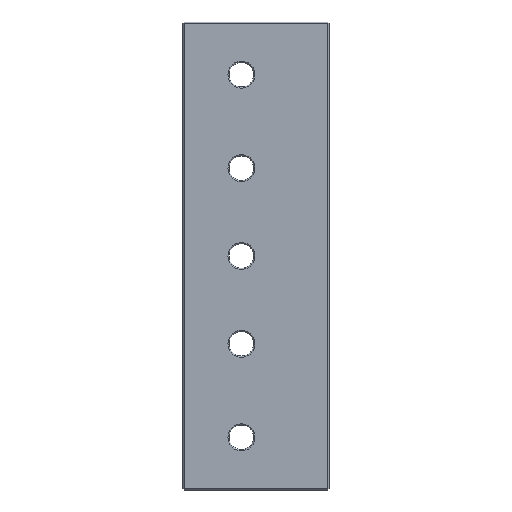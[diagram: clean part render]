
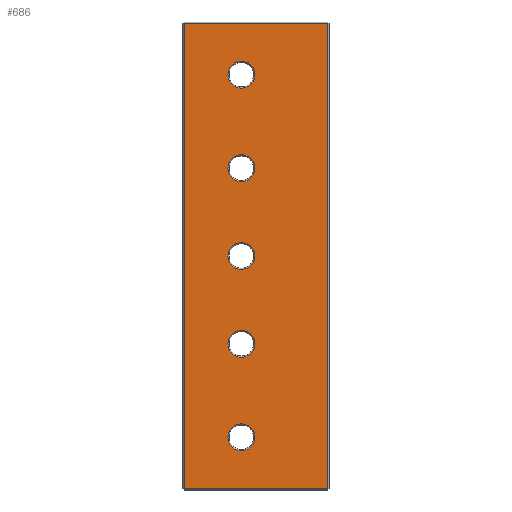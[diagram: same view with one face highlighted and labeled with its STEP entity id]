
A CAD part, front view. The second image highlights one B-rep face of the part: STEP entity #686.
In plain terms, the highlighted planar face has unit normal (0, -1, 0).
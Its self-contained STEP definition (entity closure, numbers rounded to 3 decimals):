
#19=FACE_BOUND('',#109,.T.);
#20=FACE_BOUND('',#110,.T.);
#21=FACE_BOUND('',#111,.T.);
#22=FACE_BOUND('',#112,.T.);
#23=FACE_BOUND('',#113,.T.);
#29=CIRCLE('',#748,11.5);
#31=CIRCLE('',#751,11.5);
#32=CIRCLE('',#752,11.5);
#33=CIRCLE('',#753,11.5);
#34=CIRCLE('',#754,11.5);
#66=FACE_OUTER_BOUND('',#108,.T.);
#108=EDGE_LOOP('',(#440,#441,#442,#443));
#109=EDGE_LOOP('',(#444));
#110=EDGE_LOOP('',(#445));
#111=EDGE_LOOP('',(#446));
#112=EDGE_LOOP('',(#447));
#113=EDGE_LOOP('',(#448));
#163=LINE('',#1034,#229);
#164=LINE('',#1036,#230);
#165=LINE('',#1038,#231);
#166=LINE('',#1039,#232);
#229=VECTOR('',#830,10.);
#230=VECTOR('',#831,10.);
#231=VECTOR('',#832,10.);
#232=VECTOR('',#833,10.);
#294=VERTEX_POINT('',#1026);
#296=VERTEX_POINT('',#1032);
#297=VERTEX_POINT('',#1033);
#298=VERTEX_POINT('',#1035);
#299=VERTEX_POINT('',#1037);
#300=VERTEX_POINT('',#1040);
#301=VERTEX_POINT('',#1042);
#302=VERTEX_POINT('',#1044);
#303=VERTEX_POINT('',#1046);
#345=EDGE_CURVE('',#294,#294,#29,.T.);
#348=EDGE_CURVE('',#296,#297,#163,.T.);
#349=EDGE_CURVE('',#298,#296,#164,.T.);
#350=EDGE_CURVE('',#299,#298,#165,.T.);
#351=EDGE_CURVE('',#297,#299,#166,.T.);
#352=EDGE_CURVE('',#300,#300,#31,.T.);
#353=EDGE_CURVE('',#301,#301,#32,.T.);
#354=EDGE_CURVE('',#302,#302,#33,.T.);
#355=EDGE_CURVE('',#303,#303,#34,.T.);
#440=ORIENTED_EDGE('',*,*,#348,.F.);
#441=ORIENTED_EDGE('',*,*,#349,.F.);
#442=ORIENTED_EDGE('',*,*,#350,.F.);
#443=ORIENTED_EDGE('',*,*,#351,.F.);
#444=ORIENTED_EDGE('',*,*,#352,.F.);
#445=ORIENTED_EDGE('',*,*,#353,.F.);
#446=ORIENTED_EDGE('',*,*,#354,.F.);
#447=ORIENTED_EDGE('',*,*,#355,.F.);
#448=ORIENTED_EDGE('',*,*,#345,.F.);
#615=PLANE('',#750);
#686=ADVANCED_FACE('',(#66,#19,#20,#21,#22,#23),#615,.F.);
#748=AXIS2_PLACEMENT_3D('',#1027,#823,#824);
#750=AXIS2_PLACEMENT_3D('',#1031,#828,#829);
#751=AXIS2_PLACEMENT_3D('',#1041,#834,#835);
#752=AXIS2_PLACEMENT_3D('',#1043,#836,#837);
#753=AXIS2_PLACEMENT_3D('',#1045,#838,#839);
#754=AXIS2_PLACEMENT_3D('',#1047,#840,#841);
#823=DIRECTION('center_axis',(0.,-1.,0.));
#824=DIRECTION('ref_axis',(1.,0.,0.));
#828=DIRECTION('center_axis',(0.,1.,0.));
#829=DIRECTION('ref_axis',(0.,0.,1.));
#830=DIRECTION('',(0.,0.,-1.));
#831=DIRECTION('',(1.,0.,0.));
#832=DIRECTION('',(0.,0.,1.));
#833=DIRECTION('',(-1.,0.,0.));
#834=DIRECTION('center_axis',(0.,-1.,0.));
#835=DIRECTION('ref_axis',(1.,0.,0.));
#836=DIRECTION('center_axis',(0.,-1.,0.));
#837=DIRECTION('ref_axis',(1.,0.,0.));
#838=DIRECTION('center_axis',(0.,-1.,0.));
#839=DIRECTION('ref_axis',(1.,0.,0.));
#840=DIRECTION('center_axis',(0.,-1.,0.));
#841=DIRECTION('ref_axis',(1.,0.,0.));
#1026=CARTESIAN_POINT('',(38.5,0.,45.));
#1027=CARTESIAN_POINT('Origin',(50.,0.,45.));
#1031=CARTESIAN_POINT('Origin',(62.5,0.,200.));
#1032=CARTESIAN_POINT('',(124.,0.,399.));
#1033=CARTESIAN_POINT('',(124.,0.,1.));
#1034=CARTESIAN_POINT('',(124.,0.,300.));
#1035=CARTESIAN_POINT('',(1.,0.,399.));
#1036=CARTESIAN_POINT('',(31.25,0.,399.));
#1037=CARTESIAN_POINT('',(1.,0.,1.));
#1038=CARTESIAN_POINT('',(1.,0.,100.));
#1039=CARTESIAN_POINT('',(93.75,0.,1.));
#1040=CARTESIAN_POINT('',(38.5,0.,125.));
#1041=CARTESIAN_POINT('Origin',(50.,0.,125.));
#1042=CARTESIAN_POINT('',(38.5,0.,275.));
#1043=CARTESIAN_POINT('Origin',(50.,0.,275.));
#1044=CARTESIAN_POINT('',(38.5,0.,355.));
#1045=CARTESIAN_POINT('Origin',(50.,0.,355.));
#1046=CARTESIAN_POINT('',(38.5,0.,200.));
#1047=CARTESIAN_POINT('Origin',(50.,0.,200.));
